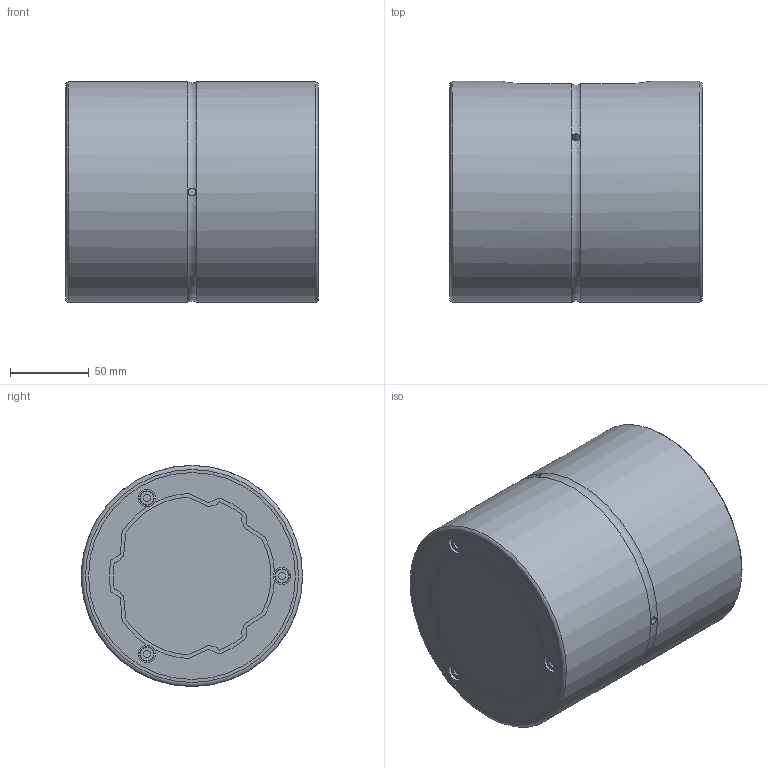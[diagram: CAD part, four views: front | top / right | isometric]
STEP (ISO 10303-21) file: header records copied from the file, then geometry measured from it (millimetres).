
FILE_DESCRIPTION(/* description */ ('STEP AP203'),/* implementation_level */ '2;1');
FILE_NAME(/* name */ 'SLS1001160(00)',/* time_stamp */ '2024-05-23T11:47:36+02:00',/* author */ ('License CC BY-ND 4.0'),/* organization */ ('CADENAS'),/* preprocessor_version */ 'ST-DEVELOPER v19.3',/* originating_system */ 'PARTsolutions',/* authorisation */ ' ');
FILE_SCHEMA (('CONFIG_CONTROL_DESIGN'));
Length unit declared in the file: millimetre
Products named in the file (3): SLS1001160(00); 100(X160); 100X cylinder
Assembly tree (2 placements, depth 2):
  SLS1001160(00)
    100(X160)
    100X cylinder
Bounding box: 160 x 140 x 140 mm (x, y, z)
Volume: 2436465.4 mm3; surface area: 208273.6 mm2
Topology: 2 solids, 2 shells, 248 faces, 670 edges, 445 vertices
Faces by surface type: plane 140, cylinder 99, torus 9
Full cylindrical faces by diameter (mm): 5 x3, 9 x6, 11 x6, 131 x2, 140 x2
Entity records: 7729 total; most frequent: CARTESIAN_POINT 1394, DIRECTION 1334, ORIENTED_EDGE 1264, EDGE_CURVE 632, AXIS2_PLACEMENT_3D 458, VERTEX_POINT 434, LINE 418, VECTOR 418
